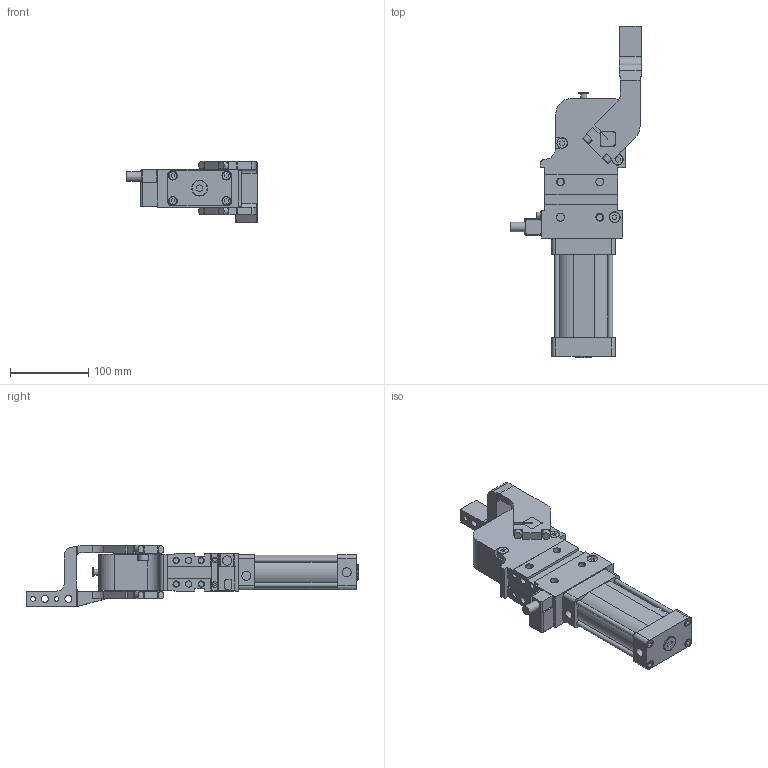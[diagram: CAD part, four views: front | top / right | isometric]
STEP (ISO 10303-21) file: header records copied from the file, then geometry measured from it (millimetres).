
FILE_DESCRIPTION(/* description */ ('STEP AP214'),/* implementation_level */ '2;1');
FILE_NAME(/* name */ 'JSKV50AM1RKG(0)',/* time_stamp */ '2024-09-21T14:57:06+02:00',/* author */ ('License CC BY-ND 4.0'),/* organization */ ('CADENAS'),/* preprocessor_version */ 'ST-DEVELOPER v19.3',/* originating_system */ 'PARTsolutions',/* authorisation */ ' ');
FILE_SCHEMA (('AUTOMOTIVE_DESIGN {1 0 10303 214 3 1 1}'));
Length unit declared in the file: millimetre
Products named in the file (5): JSKV50AM1RKG(0); JSKV50AM1RKG0; 050K; (JSK50 )0; F-JCK50AM1R
Assembly tree (4 placements, depth 2):
  JSKV50AM1RKG(0)
    JSKV50AM1RKG0
    050K
    (JSK50 )0
    F-JCK50AM1R
Bounding box: 166.5 x 423.5 x 78.5 mm (x, y, z)
Volume: 1173598.4 mm3; surface area: 191397.8 mm2
Topology: 3 solids, 6 shells, 416 faces, 1019 edges, 674 vertices
Faces by surface type: plane 274, cylinder 124, cone 16, torus 2
Full cylindrical faces by diameter (mm): 4 x2, 4.5 x2, 6 x6, 6.5 x4, 6.647 x8, 7 x2, 7.8 x1, 8 x4, 8.376 x4, 9 x2, 10 x12, 11 x4, 11.445 x2, 12 x2, 13 x3, 14 x2, 20 x1, 25 x2
Entity records: 13852 total; most frequent: DIRECTION 2028, CARTESIAN_POINT 2006, ORIENTED_EDGE 1834, EDGE_CURVE 917, AXIS2_PLACEMENT_3D 694, VERTEX_POINT 651, LINE 640, VECTOR 640
